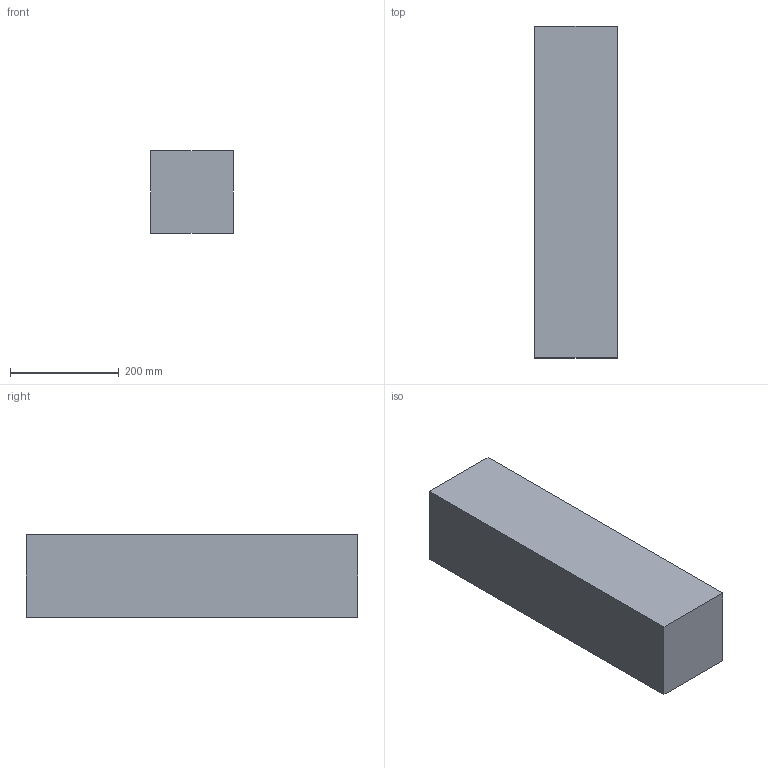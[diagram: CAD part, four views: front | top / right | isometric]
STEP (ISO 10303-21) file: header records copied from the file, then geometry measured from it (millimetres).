
FILE_DESCRIPTION(/* description */ (''),/* implementation_level */ '2;1');
FILE_NAME(/* name */ '6x6x24',/* time_stamp */ '2024-09-20T11:46:52-05:00',/* author */ (''),/* organization */ (''),/* preprocessor_version */ 'ST-DEVELOPER v19.2',/* originating_system */ 'Rhino 8.5',/* authorisation */ '');
FILE_SCHEMA (('CONFIG_CONTROL_DESIGN'));
Length unit declared in the file: inch
Products named in the file (1): Document
Bounding box: 152.4 x 609.6 x 152.4 mm (x, y, z)
Volume: 14158423.3 mm3; surface area: 418063.7 mm2
Topology: 1 solids, 1 shells, 6 faces, 12 edges, 8 vertices
Faces by surface type: plane 6
Entity records: 226 total; most frequent: CARTESIAN_POINT 40, ORIENTED_EDGE 24, EDGE_CURVE 12, B_SPLINE_CURVE_WITH_KNOTS 12, DIRECTION 10, VERTEX_POINT 8, AXIS2_PLACEMENT_3D 8, ORGANIZATION 7
